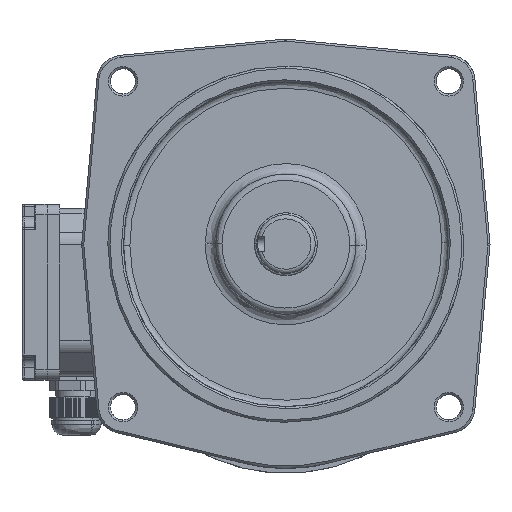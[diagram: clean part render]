
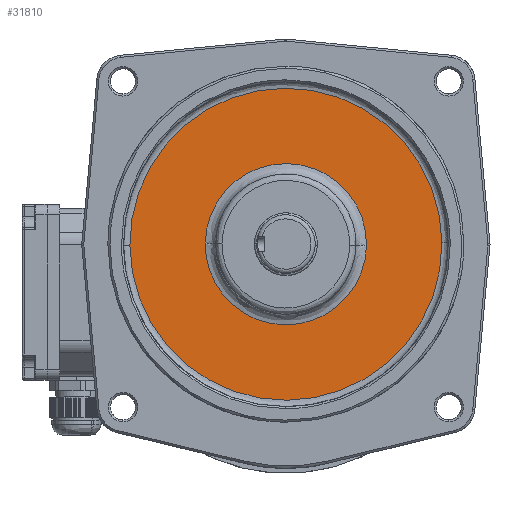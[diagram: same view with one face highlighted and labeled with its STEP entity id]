
A CAD part, top view. The second image highlights one B-rep face of the part: STEP entity #31810.
In plain terms, the highlighted planar face has unit normal (0, 0, 1) as drawn and (0, -1, 0) by its records, which use the part's own axes.
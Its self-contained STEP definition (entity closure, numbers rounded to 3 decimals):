
#1267 = VERTEX_POINT ( 'NONE', #77959 ) ;
#1276 = VERTEX_POINT ( 'NONE', #77967 ) ;
#3834 = CARTESIAN_POINT ( 'NONE',  ( 0., 1.5, 0. ) ) ;
#3837 = DIRECTION ( 'NONE',  ( 0., 1., 0. ) ) ;
#3840 = DIRECTION ( 'NONE',  ( -1., 0., 0. ) ) ;
#4892 = VERTEX_POINT ( 'NONE', #88128 ) ;
#8361 = VERTEX_POINT ( 'NONE', #88150 ) ;
#23098 = EDGE_CURVE ( 'NONE', #4892, #8361, #115259, .T. ) ;
#25676 = PLANE ( 'NONE',  #66217 ) ;
#25678 = CARTESIAN_POINT ( 'NONE',  ( 0., 1.5, 0. ) ) ;
#25680 = DIRECTION ( 'NONE',  ( 0., -1., 0. ) ) ;
#25682 = DIRECTION ( 'NONE',  ( 0., 0., -1. ) ) ;
#31810 = ADVANCED_FACE ( 'NONE', ( #66235, #66220 ), #25676, .T. ) ;
#44782 = EDGE_CURVE ( 'NONE', #8361, #4892, #115640, .T. ) ;
#44805 = EDGE_CURVE ( 'NONE', #1267, #1276, #115646, .T. ) ;
#54171 = AXIS2_PLACEMENT_3D ( 'NONE', #59621, #59623, #59625 ) ;
#59621 = CARTESIAN_POINT ( 'NONE',  ( 0., 1.5, 0. ) ) ;
#59623 = DIRECTION ( 'NONE',  ( 0., -1., 0. ) ) ;
#59625 = DIRECTION ( 'NONE',  ( -1., 0., 0. ) ) ;
#60937 = AXIS2_PLACEMENT_3D ( 'NONE', #68840, #68841, #68842 ) ;
#60958 = AXIS2_PLACEMENT_3D ( 'NONE', #68858, #68859, #68860 ) ;
#64292 = EDGE_LOOP ( 'NONE', ( #76899, #76900 ) ) ;
#64375 = EDGE_LOOP ( 'NONE', ( #76897, #76898 ) ) ;
#66217 = AXIS2_PLACEMENT_3D ( 'NONE', #25678, #25680, #25682 ) ;
#66220 = FACE_OUTER_BOUND ( 'NONE', #64292, .T. ) ;
#66235 = FACE_BOUND ( 'NONE', #64375, .T. ) ;
#67241 = EDGE_CURVE ( 'NONE', #1276, #1267, #105287, .T. ) ;
#68840 = CARTESIAN_POINT ( 'NONE',  ( 0., 1.5, 0. ) ) ;
#68841 = DIRECTION ( 'NONE',  ( 0., 1., 0. ) ) ;
#68842 = DIRECTION ( 'NONE',  ( -1., 0., 0. ) ) ;
#68858 = CARTESIAN_POINT ( 'NONE',  ( 0., 1.5, 0. ) ) ;
#68859 = DIRECTION ( 'NONE',  ( 0., -1., 0. ) ) ;
#68860 = DIRECTION ( 'NONE',  ( -1., 0., 0. ) ) ;
#73483 = AXIS2_PLACEMENT_3D ( 'NONE', #3834, #3837, #3840 ) ;
#76897 = ORIENTED_EDGE ( 'NONE', *, *, #67241, .F. ) ;
#76898 = ORIENTED_EDGE ( 'NONE', *, *, #44805, .F. ) ;
#76899 = ORIENTED_EDGE ( 'NONE', *, *, #44782, .F. ) ;
#76900 = ORIENTED_EDGE ( 'NONE', *, *, #23098, .F. ) ;
#77959 = CARTESIAN_POINT ( 'NONE',  ( -38.496, 1.5, 0.566 ) ) ;
#77967 = CARTESIAN_POINT ( 'NONE',  ( 38.496, 1.5, -0.566 ) ) ;
#88128 = CARTESIAN_POINT ( 'NONE',  ( 74.497, 1.5, 0.673 ) ) ;
#88150 = CARTESIAN_POINT ( 'NONE',  ( -74.497, 1.5, -0.673 ) ) ;
#105287 = CIRCLE ( 'NONE', #54171, 38.5 ) ;
#115259 = CIRCLE ( 'NONE', #73483, 74.5 ) ;
#115640 = CIRCLE ( 'NONE', #60937, 74.5 ) ;
#115646 = CIRCLE ( 'NONE', #60958, 38.5 ) ;
